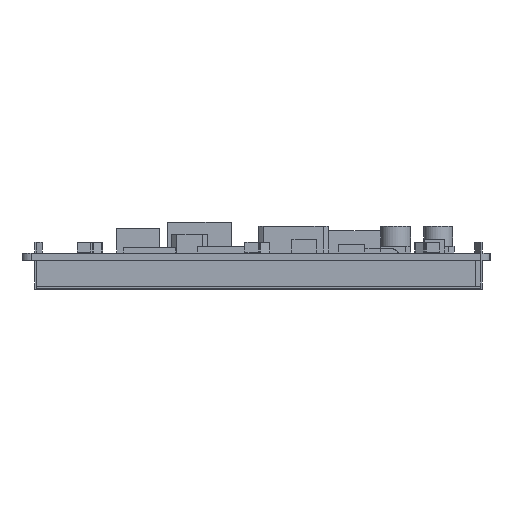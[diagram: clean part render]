
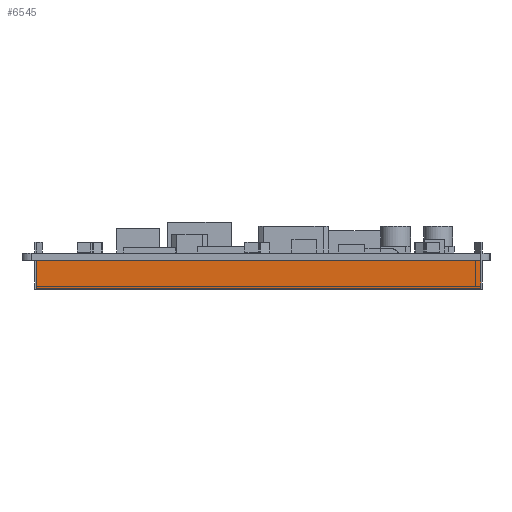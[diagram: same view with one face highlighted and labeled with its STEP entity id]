
A CAD part, left-side view. The second image highlights one B-rep face of the part: STEP entity #6545.
In plain terms, the highlighted planar face has unit normal (-1, 0, 0).
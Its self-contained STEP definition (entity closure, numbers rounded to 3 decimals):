
#6545=ADVANCED_FACE('',(#10678),#8599,.F.);
#8599=PLANE('',#39728);
#10678=FACE_OUTER_BOUND('',#12849,.T.);
#12849=EDGE_LOOP('',(#20563,#20564,#20565,#20566));
#20563=ORIENTED_EDGE('',*,*,#28612,.T.);
#20564=ORIENTED_EDGE('',*,*,#28613,.F.);
#20565=ORIENTED_EDGE('',*,*,#28614,.F.);
#20566=ORIENTED_EDGE('',*,*,#28615,.T.);
#24455=VERTEX_POINT('',#56927);
#24456=VERTEX_POINT('',#56928);
#24457=VERTEX_POINT('',#56930);
#24458=VERTEX_POINT('',#56932);
#28612=EDGE_CURVE('',#24455,#24456,#32902,.T.);
#28613=EDGE_CURVE('',#24457,#24456,#32903,.T.);
#28614=EDGE_CURVE('',#24458,#24457,#32904,.T.);
#28615=EDGE_CURVE('',#24458,#24455,#32905,.T.);
#32902=LINE('',#56926,#37180);
#32903=LINE('',#56929,#37181);
#32904=LINE('',#56931,#37182);
#32905=LINE('',#56933,#37183);
#37180=VECTOR('',#47364,1.);
#37181=VECTOR('',#47365,1.);
#37182=VECTOR('',#47366,1.);
#37183=VECTOR('',#47367,1.);
#39728=AXIS2_PLACEMENT_3D('',#56934,#47368,#47369);
#47364=DIRECTION('',(0.,1.,0.));
#47365=DIRECTION('',(0.,0.,1.));
#47366=DIRECTION('',(0.,1.,0.));
#47367=DIRECTION('',(0.,0.,1.));
#47368=DIRECTION('',(1.,0.,0.));
#47369=DIRECTION('',(0.,1.,0.));
#56926=CARTESIAN_POINT('',(-77.25,-45.34,-1.6));
#56927=CARTESIAN_POINT('',(-77.25,-45.34,-1.6));
#56928=CARTESIAN_POINT('',(-77.25,54.68,-1.6));
#56929=CARTESIAN_POINT('',(-77.25,54.68,-7.9));
#56930=CARTESIAN_POINT('',(-77.25,54.68,-7.9));
#56931=CARTESIAN_POINT('',(-77.25,-45.34,-7.9));
#56932=CARTESIAN_POINT('',(-77.25,-45.34,-7.9));
#56933=CARTESIAN_POINT('',(-77.25,-45.34,-7.9));
#56934=CARTESIAN_POINT('',(-77.25,-45.34,-7.9));
